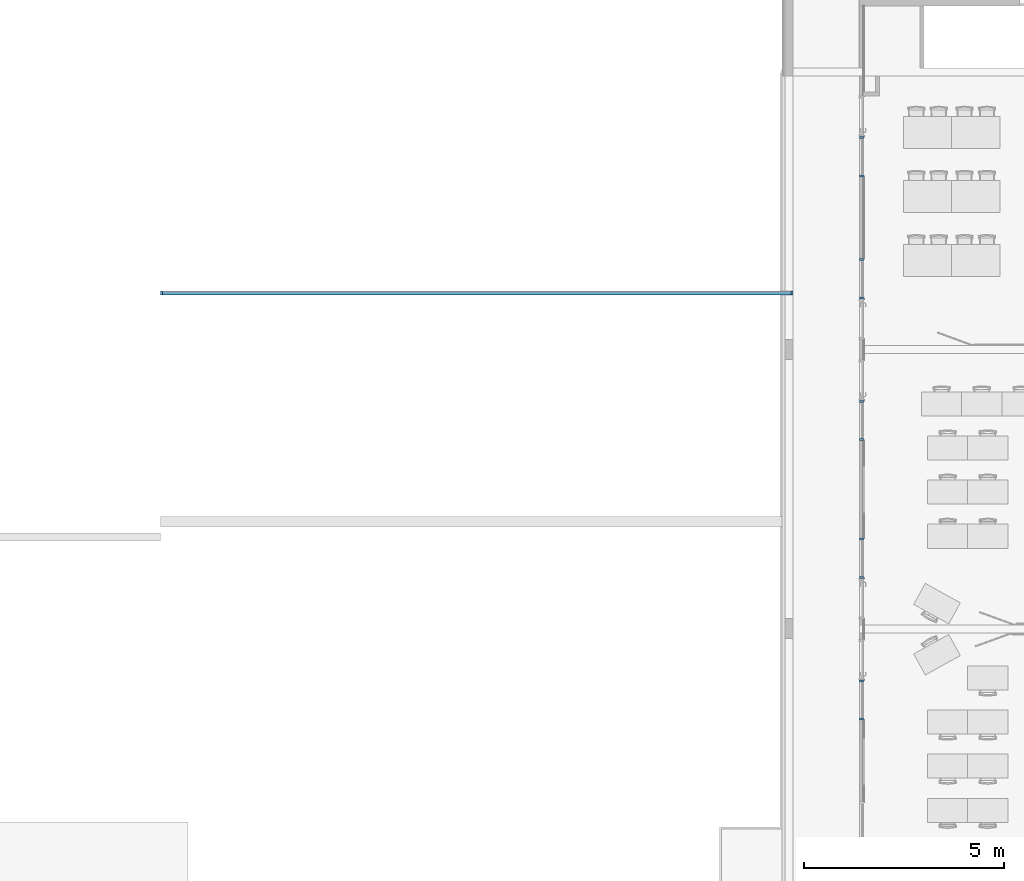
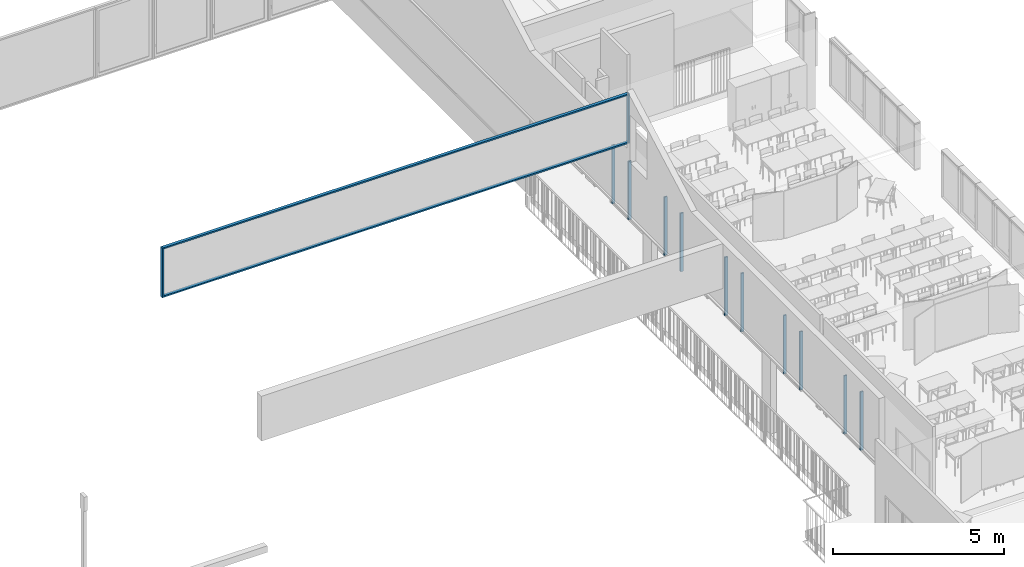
# One storey, part 7 of 44: 14 members, 6 elements without a shape of their own.
"""IFC2X3 building model written with IfcOpenShell, lengths in centimetres."""

from ifc_helpers import new_model, entity, si_unit, converted_unit, derived_unit, direction, frame, frame_2d, origin, place, context, subcontext, project, spatial, rectangle, extrude, material, type_object, element, aggregate, save


model = new_model("IFC2X3")

# Units and contexts
model_context = context("Model", 3, precision=0.001, world=origin(), true_north=direction((6.12303176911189e-17, 1.0)))
body_context = subcontext(model_context, "Body", "Model", "MODEL_VIEW")
ifc_project = project(units=[si_unit("LENGTHUNIT", "METRE", prefix="CENTI"), si_unit("AREAUNIT", "SQUARE_METRE"), si_unit("VOLUMEUNIT", "CUBIC_METRE"), converted_unit("PLANEANGLEUNIT", "DEGREE", entity("IfcRatioMeasure", 0.0174532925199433), si_unit("PLANEANGLEUNIT", "RADIAN"), dimensions=[0, 0, 0, 0, 0, 0, 0]), si_unit("MASSUNIT", "GRAM", prefix="KILO"), si_unit("TIMEUNIT", "SECOND"), si_unit("FREQUENCYUNIT", "HERTZ"), si_unit("THERMODYNAMICTEMPERATUREUNIT", "DEGREE_CELSIUS"), derived_unit("THERMALTRANSMITTANCEUNIT", [(si_unit("MASSUNIT", "GRAM", prefix="KILO"), 1), (si_unit("THERMODYNAMICTEMPERATUREUNIT", "KELVIN"), -1), (si_unit("TIMEUNIT", "SECOND"), -3)]), derived_unit("VOLUMETRICFLOWRATEUNIT", [(si_unit("LENGTHUNIT", "METRE"), 3), (si_unit("TIMEUNIT", "SECOND"), -1)]), si_unit("ELECTRICCURRENTUNIT", "AMPERE"), si_unit("ELECTRICVOLTAGEUNIT", "VOLT"), si_unit("POWERUNIT", "WATT"), si_unit("FORCEUNIT", "NEWTON", prefix="KILO"), si_unit("ILLUMINANCEUNIT", "LUX"), si_unit("LUMINOUSFLUXUNIT", "LUMEN"), si_unit("LUMINOUSINTENSITYUNIT", "CANDELA"), derived_unit("USERDEFINED", [(si_unit("MASSUNIT", "GRAM", prefix="KILO"), -1), (si_unit("LENGTHUNIT", "METRE"), -2), (si_unit("TIMEUNIT", "SECOND"), 3), (si_unit("LUMINOUSFLUXUNIT", "LUMEN"), 1)]), derived_unit("LINEARVELOCITYUNIT", [(si_unit("LENGTHUNIT", "METRE"), 1), (si_unit("TIMEUNIT", "SECOND"), -1)]), si_unit("PRESSUREUNIT", "PASCAL"), derived_unit("USERDEFINED", [(si_unit("LENGTHUNIT", "METRE"), -2), (si_unit("MASSUNIT", "GRAM", prefix="KILO"), 1), (si_unit("TIMEUNIT", "SECOND"), -2)])], contexts=[model_context])

# Site, building, storey
site_placement = place(None, frame((8.62739174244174, -249.285249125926, 0.0)))
site = spatial("IfcSite", under=ifc_project, at=site_placement, Name="Default", CompositionType="ELEMENT")
building_placement = place(site_placement, origin())
building = spatial("IfcBuilding", under=site, at=building_placement, CompositionType="ELEMENT")
storey_placement = place(building_placement, frame((0.0, 0.0, 343.0)))
storey = spatial("IfcBuildingStorey", under=building, at=storey_placement, Name="R+1", CompositionType="ELEMENT", Elevation=343.0)

# Curtain wall, members
curtain_wall_type = type_object("IfcCurtainWallType", Name="Mur-rideau:Simple panneau", PredefinedType="NOTDEFINED")
curtain_wall_1_placement = place(storey_placement, frame((0.0, 0.0, -343.0)))
curtain_wall_1 = element("IfcCurtainWall", 1, at=curtain_wall_1_placement, inside=storey, type_object=curtain_wall_type, Name="Mur-rideau:Simple panneau", ObjectType="Mur-rideau:Simple panneau")
ifc_material = material(Name="Plastique, blanc opaque")
member_1_placement = place(curtain_wall_1_placement, frame((0.0, 0.0, 343.0)))
member_1 = element("IfcMember", 2, at=member_1_placement, material=ifc_material, Name="Mur-rideau:Simple panneau", ObjectType="Mur-rideau:Simple panneau", context=body_context, shape_type="SweptSolid", body=[
    extrude(rectangle(XDim=10.0000000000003, YDim=4.99999999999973, at=frame_2d((4.33431068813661e-13, -4.33209024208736e-13), x_axis=(1.0, 0.0))), frame((3224.90482780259, 4129.68519336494, 208.499999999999), z_axis=(0.0, 0.0, -1.0), x_axis=(-1.0, 0.0, 0.0)), (0.0, 0.0, 1.0), 208.499999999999),
])
member_2_placement = place(curtain_wall_1_placement, frame((0.0, 0.0, 343.0)))
member_2 = element("IfcMember", 3, at=member_2_placement, material=ifc_material, Name="Mur-rideau:Simple panneau", ObjectType="Mur-rideau:Simple panneau", context=body_context, shape_type="SweptSolid", body=[
    extrude(rectangle(XDim=10.0000000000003, YDim=4.99999999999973, at=frame_2d((0.0, -4.33209024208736e-13), x_axis=(1.0, 0.0))), frame((3224.90482780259, 4224.68519336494, 0.0), z_axis=(0.0, 0.0, 1.0), x_axis=(-1.0, 0.0, 0.0)), (0.0, 0.0, 1.0), 208.499999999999),
])
aggregate(curtain_wall_1, [member_1, member_2])

curtain_wall_2_placement = place(storey_placement, frame((0.0, 0.0, -343.0)))
curtain_wall_2 = element("IfcCurtainWall", 4, at=curtain_wall_2_placement, inside=storey, type_object=curtain_wall_type, Name="Mur-rideau:Simple panneau", ObjectType="Mur-rideau:Simple panneau")
member_3_placement = place(curtain_wall_2_placement, frame((0.0, 0.0, 343.0)))
member_3 = element("IfcMember", 5, at=member_3_placement, material=ifc_material, Name="Mur-rideau:Simple panneau", ObjectType="Mur-rideau:Simple panneau", context=body_context, shape_type="SweptSolid", body=[
    extrude(rectangle(XDim=10.0000000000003, YDim=5.00000000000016, at=frame_2d((-4.33431068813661e-13, 2.16715534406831e-13), x_axis=(1.0, 0.0))), frame((3224.90482780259, 3432.68519336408, 208.499999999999), z_axis=(0.0, 0.0, -1.0), x_axis=(-1.0, 0.0, 0.0)), (0.0, 0.0, 1.0), 208.499999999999),
])
member_4_placement = place(curtain_wall_2_placement, frame((0.0, 0.0, 343.0)))
member_4 = element("IfcMember", 6, at=member_4_placement, material=ifc_material, Name="Mur-rideau:Simple panneau", ObjectType="Mur-rideau:Simple panneau", context=body_context, shape_type="SweptSolid", body=[
    extrude(rectangle(XDim=10.0000000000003, YDim=5.00000000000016, at=frame_2d((4.33431068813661e-13, -2.16715534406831e-13), x_axis=(1.0, 0.0))), frame((3224.90482780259, 3527.68519336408, 0.0), z_axis=(0.0, 0.0, 1.0), x_axis=(-1.0, 0.0, 0.0)), (0.0, 0.0, 1.0), 208.499999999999),
])
aggregate(curtain_wall_2, [member_3, member_4])

curtain_wall_3_placement = place(storey_placement, frame((0.0, 0.0, -343.0)))
curtain_wall_3 = element("IfcCurtainWall", 7, at=curtain_wall_3_placement, inside=storey, type_object=curtain_wall_type, Name="Mur-rideau:Simple panneau", ObjectType="Mur-rideau:Simple panneau")
member_5_placement = place(curtain_wall_3_placement, frame((0.0, 0.0, 343.0)))
member_5 = element("IfcMember", 8, at=member_5_placement, material=ifc_material, Name="Mur-rideau:Simple panneau", ObjectType="Mur-rideau:Simple panneau", context=body_context, shape_type="SweptSolid", body=[
    extrude(rectangle(XDim=10.0000000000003, YDim=5.00000000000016, at=frame_2d((0.0, -2.16715534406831e-13), x_axis=(1.0, 0.0))), frame((3224.90482780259, 3078.68519336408, 208.499999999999), z_axis=(0.0, 0.0, -1.0), x_axis=(-1.0, 0.0, 0.0)), (0.0, 0.0, 1.0), 208.499999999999),
])
member_6_placement = place(curtain_wall_3_placement, frame((0.0, 0.0, 343.0)))
member_6 = element("IfcMember", 9, at=member_6_placement, material=ifc_material, Name="Mur-rideau:Simple panneau", ObjectType="Mur-rideau:Simple panneau", context=body_context, shape_type="SweptSolid", body=[
    extrude(rectangle(XDim=10.0000000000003, YDim=5.00000000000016, at=frame_2d((0.0, 2.16715534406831e-13), x_axis=(1.0, 0.0))), frame((3224.90482780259, 3173.68519336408, 0.0), z_axis=(0.0, 0.0, 1.0), x_axis=(-1.0, 0.0, 0.0)), (0.0, 0.0, 1.0), 208.499999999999),
])
aggregate(curtain_wall_3, [member_5, member_6])

curtain_wall_4_placement = place(storey_placement, frame((0.0, 0.0, -343.0)))
curtain_wall_4 = element("IfcCurtainWall", 10, at=curtain_wall_4_placement, inside=storey, type_object=curtain_wall_type, Name="Mur-rideau:Simple panneau", ObjectType="Mur-rideau:Simple panneau")
member_7_placement = place(curtain_wall_4_placement, frame((0.0, 0.0, 343.0)))
member_7 = element("IfcMember", 11, at=member_7_placement, material=ifc_material, Name="Mur-rideau:Simple panneau", ObjectType="Mur-rideau:Simple panneau", context=body_context, shape_type="SweptSolid", body=[
    extrude(rectangle(XDim=10.0000000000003, YDim=5.00000000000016, at=frame_2d((4.33431068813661e-13, 2.16715534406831e-13), x_axis=(1.0, 0.0))), frame((3224.90482780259, 3775.68519336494, 208.499999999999), z_axis=(0.0, 0.0, -1.0), x_axis=(-1.0, 0.0, 0.0)), (0.0, 0.0, 1.0), 208.499999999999),
])
member_8_placement = place(curtain_wall_4_placement, frame((0.0, 0.0, 343.0)))
member_8 = element("IfcMember", 12, at=member_8_placement, material=ifc_material, Name="Mur-rideau:Simple panneau", ObjectType="Mur-rideau:Simple panneau", context=body_context, shape_type="SweptSolid", body=[
    extrude(rectangle(XDim=10.0000000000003, YDim=5.00000000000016, at=frame_2d((0.0, 2.16715534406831e-13), x_axis=(1.0, 0.0))), frame((3224.90482780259, 3870.68519336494, 0.0), z_axis=(0.0, 0.0, 1.0), x_axis=(-1.0, 0.0, 0.0)), (0.0, 0.0, 1.0), 208.499999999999),
])
aggregate(curtain_wall_4, [member_7, member_8])

curtain_wall_5_placement = place(storey_placement, frame((0.0, 0.0, -343.0)))
curtain_wall_5 = element("IfcCurtainWall", 13, at=curtain_wall_5_placement, inside=storey, type_object=curtain_wall_type, Name="Mur-rideau:Simple panneau", ObjectType="Mur-rideau:Simple panneau")
member_9_placement = place(curtain_wall_5_placement, frame((0.0, 0.0, 343.0)))
member_9 = element("IfcMember", 14, at=member_9_placement, material=ifc_material, Name="Mur-rideau:Simple panneau", ObjectType="Mur-rideau:Simple panneau", context=body_context, shape_type="SweptSolid", body=[
    extrude(rectangle(XDim=4.99999999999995, YDim=9.99999999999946, at=frame_2d((1.08357767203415e-13, 0.0), x_axis=(1.0, 0.0))), frame((1479.4048277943, 4141.47531195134, 689.084357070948), z_axis=(0.0, 0.0, -1.0), x_axis=(-1.0, 0.0, 0.0)), (0.0, 0.0, 1.0), 177.084357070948),
])
member_10_placement = place(curtain_wall_5_placement, frame((0.0, 0.0, 343.0)))
member_10 = element("IfcMember", 15, at=member_10_placement, material=ifc_material, Name="Mur-rideau:Simple panneau", ObjectType="Mur-rideau:Simple panneau", context=body_context, shape_type="SweptSolid", body=[
    extrude(rectangle(XDim=4.99999999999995, YDim=9.99999999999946, at=frame_2d((1.08357767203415e-13, 0.0), x_axis=(1.0, 0.0))), frame((3048.90482781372, 4141.47531195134, 686.584357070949), z_axis=(-1.0, 0.0, 0.0), x_axis=(0.0, 0.0, -1.0)), (0.0, 0.0, 1.0), 1567.00000001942),
])
member_11_placement = place(curtain_wall_5_placement, frame((0.0, 0.0, 343.0)))
member_11 = element("IfcMember", 16, at=member_11_placement, material=ifc_material, Name="Mur-rideau:Simple panneau", ObjectType="Mur-rideau:Simple panneau", context=body_context, shape_type="SweptSolid", body=[
    extrude(rectangle(XDim=5.00000000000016, YDim=9.99999999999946, at=frame_2d((-2.16715534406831e-13, 0.0), x_axis=(1.0, 0.0))), frame((3051.40482781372, 4141.47531195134, 512.0), z_axis=(0.0, 0.0, 1.0), x_axis=(-1.0, 0.0, 0.0)), (0.0, 0.0, 1.0), 177.084357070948),
])
member_12_placement = place(curtain_wall_5_placement, frame((0.0, 0.0, 343.0)))
member_12 = element("IfcMember", 17, at=member_12_placement, material=ifc_material, Name="Mur-rideau:Simple panneau", ObjectType="Mur-rideau:Simple panneau", context=body_context, shape_type="SweptSolid", body=[
    extrude(rectangle(XDim=5.00000000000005, YDim=9.99999999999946, at=frame_2d((-5.41788836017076e-14, 0.0), x_axis=(1.0, 0.0))), frame((1481.9048277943, 4141.47531195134, 514.5), z_axis=(1.0, 0.0, 0.0), x_axis=(0.0, 0.0, -1.0)), (0.0, 0.0, 1.0), 1567.00000001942),
])
aggregate(curtain_wall_5, [member_9, member_10, member_11, member_12])

curtain_wall_6_placement = place(storey_placement, frame((0.0, 0.0, -343.0)))
curtain_wall_6 = element("IfcCurtainWall", 18, at=curtain_wall_6_placement, inside=storey, type_object=curtain_wall_type, Name="Mur-rideau:Simple panneau", ObjectType="Mur-rideau:Simple panneau")
member_13_placement = place(curtain_wall_6_placement, frame((0.0, 0.0, 343.0)))
member_13 = element("IfcMember", 19, at=member_13_placement, material=ifc_material, Name="Mur-rideau:Simple panneau", ObjectType="Mur-rideau:Simple panneau", context=body_context, shape_type="SweptSolid", body=[
    extrude(rectangle(XDim=10.0000000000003, YDim=4.99999999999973, at=frame_2d((0.0, -4.33209024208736e-13), x_axis=(1.0, 0.0))), frame((3224.90482780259, 4433.98020813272, 208.499999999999), z_axis=(0.0, 0.0, -1.0), x_axis=(-1.0, 0.0, 0.0)), (0.0, 0.0, 1.0), 208.499999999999),
])
member_14_placement = place(curtain_wall_6_placement, frame((0.0, 0.0, 343.0)))
member_14 = element("IfcMember", 20, at=member_14_placement, material=ifc_material, Name="Mur-rideau:Simple panneau", ObjectType="Mur-rideau:Simple panneau", context=body_context, shape_type="SweptSolid", body=[
    extrude(rectangle(XDim=10.0000000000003, YDim=4.99999999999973, at=frame_2d((-4.33431068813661e-13, -4.33209024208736e-13), x_axis=(1.0, 0.0))), frame((3224.90482780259, 4528.98020813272, 0.0), z_axis=(0.0, 0.0, 1.0), x_axis=(-1.0, 0.0, 0.0)), (0.0, 0.0, 1.0), 208.499999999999),
])
aggregate(curtain_wall_6, [member_13, member_14])

save(model, "model.ifc")
